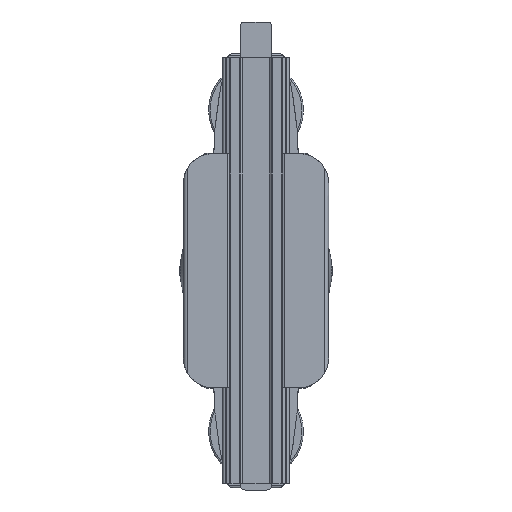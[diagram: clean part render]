
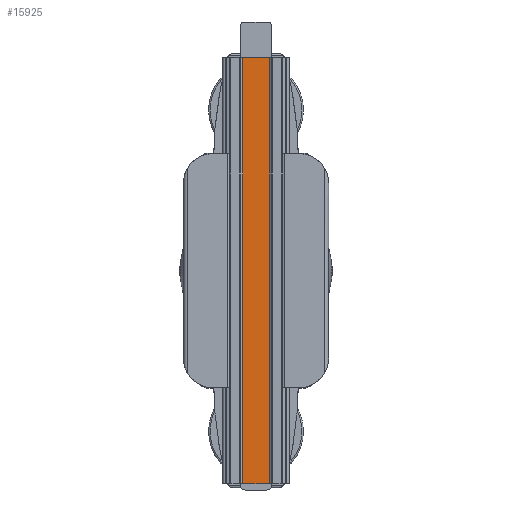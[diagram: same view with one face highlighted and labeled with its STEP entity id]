
A CAD part, front view. The second image highlights one B-rep face of the part: STEP entity #15925.
In plain terms, the highlighted planar face has unit normal (0, -1, 0).
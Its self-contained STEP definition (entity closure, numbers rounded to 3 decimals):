
#415=PLANE('',#17194);
#1130=LINE('',#28316,#2156);
#1131=LINE('',#28318,#2157);
#1132=LINE('',#28320,#2158);
#1133=LINE('',#28321,#2159);
#2156=VECTOR('',#20059,10.);
#2157=VECTOR('',#20060,10.);
#2158=VECTOR('',#20061,10.);
#2159=VECTOR('',#20062,10.);
#3559=FACE_OUTER_BOUND('',#4528,.T.);
#4528=EDGE_LOOP('',(#12021,#12022,#12023,#12024));
#6983=VERTEX_POINT('',#28314);
#6984=VERTEX_POINT('',#28315);
#6985=VERTEX_POINT('',#28317);
#6986=VERTEX_POINT('',#28319);
#8846=EDGE_CURVE('',#6983,#6984,#1130,.T.);
#8847=EDGE_CURVE('',#6984,#6985,#1131,.T.);
#8848=EDGE_CURVE('',#6985,#6986,#1132,.T.);
#8849=EDGE_CURVE('',#6986,#6983,#1133,.T.);
#12021=ORIENTED_EDGE('',*,*,#8846,.T.);
#12022=ORIENTED_EDGE('',*,*,#8847,.T.);
#12023=ORIENTED_EDGE('',*,*,#8848,.T.);
#12024=ORIENTED_EDGE('',*,*,#8849,.T.);
#15925=ADVANCED_FACE('',(#3559),#415,.T.);
#17194=AXIS2_PLACEMENT_3D('',#28313,#20057,#20058);
#20057=DIRECTION('center_axis',(0.,-1.,0.));
#20058=DIRECTION('ref_axis',(-1.,0.,0.));
#20059=DIRECTION('',(0.,0.,1.));
#20060=DIRECTION('',(-1.,0.,0.));
#20061=DIRECTION('',(0.,0.,-1.));
#20062=DIRECTION('',(1.,0.,0.));
#28313=CARTESIAN_POINT('Origin',(6.151,1.,0.));
#28314=CARTESIAN_POINT('',(6.151,1.,-100.));
#28315=CARTESIAN_POINT('',(6.151,1.,100.));
#28316=CARTESIAN_POINT('',(6.151,1.,0.));
#28317=CARTESIAN_POINT('',(-6.151,1.,100.));
#28318=CARTESIAN_POINT('',(3.075,1.,100.));
#28319=CARTESIAN_POINT('',(-6.151,1.,-100.));
#28320=CARTESIAN_POINT('',(-6.151,1.,0.));
#28321=CARTESIAN_POINT('',(3.075,1.,-100.));
